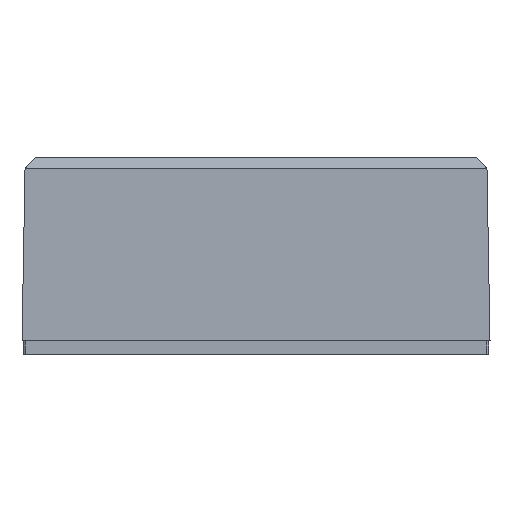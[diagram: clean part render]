
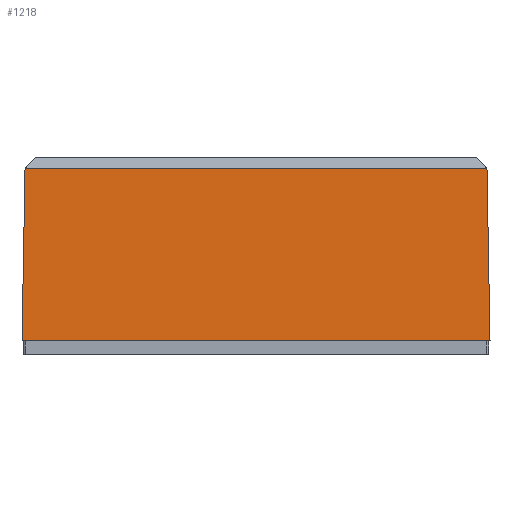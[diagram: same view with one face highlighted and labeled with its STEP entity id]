
A CAD part, left-side view. The second image highlights one B-rep face of the part: STEP entity #1218.
In plain terms, the highlighted planar face has unit normal (-1, 0, 0.018).
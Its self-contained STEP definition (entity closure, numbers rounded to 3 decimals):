
#25=DIRECTION('',(0.017,-0.017,1.));
#26=VECTOR('',#25,6.617);
#27=CARTESIAN_POINT('',(-11.95,8.95,0.5));
#28=LINE('',#27,#26);
#258=DIRECTION('',(0.,1.,0.));
#259=VECTOR('',#258,17.9);
#260=CARTESIAN_POINT('',(-11.95,-8.95,0.5));
#261=LINE('',#260,#259);
#294=DIRECTION('',(0.017,0.017,1.));
#295=VECTOR('',#294,6.617);
#296=CARTESIAN_POINT('',(-11.95,-8.95,0.5));
#297=LINE('',#296,#295);
#306=DIRECTION('',(0.,-1.,0.));
#307=VECTOR('',#306,17.669);
#308=CARTESIAN_POINT('',(-11.835,8.835,7.115));
#309=LINE('',#308,#307);
#615=CARTESIAN_POINT('',(-11.835,8.835,7.115));
#616=VERTEX_POINT('',#615);
#639=CARTESIAN_POINT('',(-11.835,-8.835,7.115));
#640=VERTEX_POINT('',#639);
#641=CARTESIAN_POINT('',(-11.95,-8.95,0.5));
#642=VERTEX_POINT('',#641);
#675=CARTESIAN_POINT('',(-11.95,8.95,0.5));
#676=VERTEX_POINT('',#675);
#1206=CARTESIAN_POINT('',(-11.95,0.,0.5));
#1207=DIRECTION('',(-1.,0.,0.017));
#1208=DIRECTION('',(0.017,0.,1.));
#1209=AXIS2_PLACEMENT_3D('',#1206,#1207,#1208);
#1210=PLANE('',#1209);
#1211=ORIENTED_EDGE('',*,*,#1150,.F.);
#1212=ORIENTED_EDGE('',*,*,#1180,.T.);
#1213=ORIENTED_EDGE('',*,*,#747,.T.);
#1215=ORIENTED_EDGE('',*,*,#1214,.T.);
#1216=EDGE_LOOP('',(#1211,#1212,#1213,#1215));
#1217=FACE_OUTER_BOUND('',#1216,.F.);
#1218=ADVANCED_FACE('',(#1217),#1210,.T.);
#747=EDGE_CURVE('',#676,#616,#28,.T.);
#1150=EDGE_CURVE('',#642,#640,#297,.T.);
#1180=EDGE_CURVE('',#642,#676,#261,.T.);
#1214=EDGE_CURVE('',#616,#640,#309,.T.);
